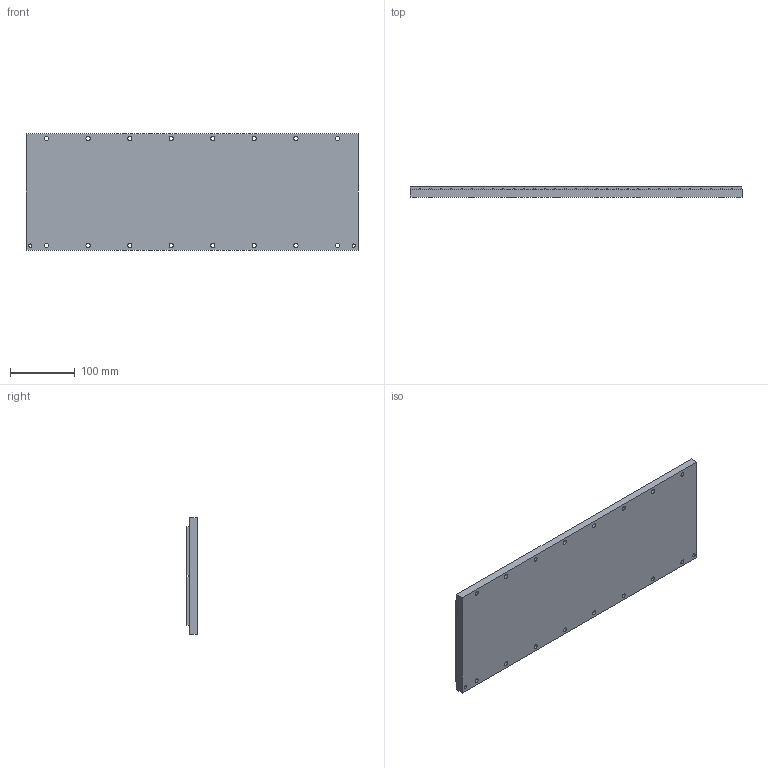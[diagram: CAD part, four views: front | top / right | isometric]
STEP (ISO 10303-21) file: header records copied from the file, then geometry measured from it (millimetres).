
FILE_DESCRIPTION((''),'2;1');
FILE_NAME('MC150-0512-WC','2007-01-14T',('saurabh.singhal'),(''),'PRO/ENGINEER BY PARAMETRIC TECHNOLOGY CORPORATION, 2005450','PRO/ENGINEER BY PARAMETRIC TECHNOLOGY CORPORATION, 2005450','');
FILE_SCHEMA(('CONFIG_CONTROL_DESIGN'));
Length unit declared in the file: millimetre
Products named in the file (1): MC150-0512-WC
Bounding box: 511.3 x 16.4 x 180 mm (x, y, z)
Volume: 1381316.8 mm3; surface area: 414724.7 mm2
Topology: 1 solids, 1 shells, 418 faces, 1008 edges, 672 vertices
Faces by surface type: plane 350, cylinder 68
Entity records: 12162 total; most frequent: CARTESIAN_POINT 2098, ORIENTED_EDGE 2016, DIRECTION 1980, EDGE_CURVE 1008, VECTOR 872, LINE 872, VERTEX_POINT 672, AXIS2_PLACEMENT_3D 554
